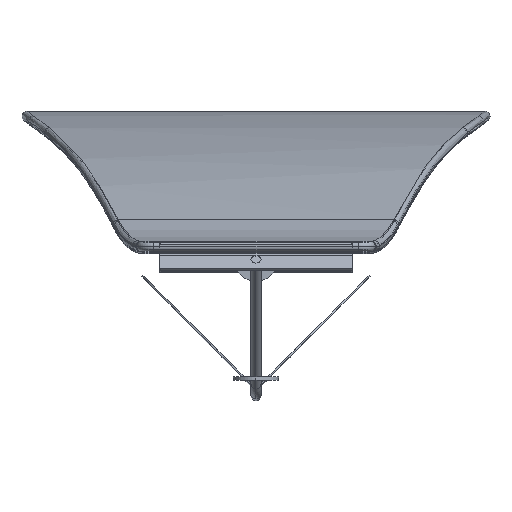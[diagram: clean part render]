
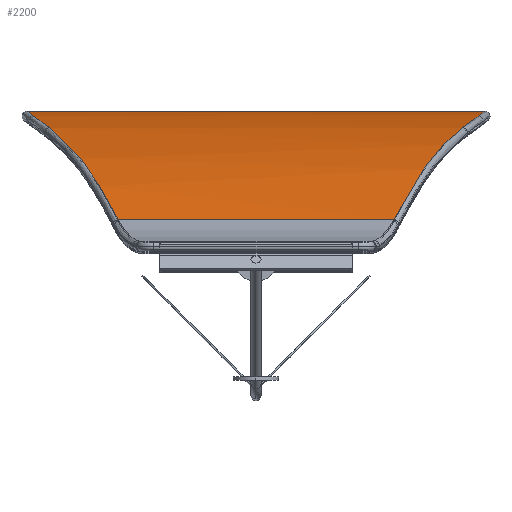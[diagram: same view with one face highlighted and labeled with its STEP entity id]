
A CAD part, top view. The second image highlights one B-rep face of the part: STEP entity #2200.
In plain terms, the highlighted cylindrical face has radius 593.531 mm (diameter 1187.06 mm), a partial arc.
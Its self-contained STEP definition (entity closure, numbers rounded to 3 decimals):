
#83 = B_SPLINE_CURVE_WITH_KNOTS ( 'NONE', 3,
 ( #5920, #5198, #4468, #8738, #5137, #7955, #8651, #4553, #345, #5226, #380, #5863, #1681, #8036, #5170, #2429 ),
 .UNSPECIFIED., .F., .F.,
 ( 4, 2, 2, 2, 2, 2, 2, 4 ),
 ( 0., 0.055, 0.109, 0.116, 0.123, 0.136, 0.164, 0.218 ),
 .UNSPECIFIED. ) ;
#106 = LINE ( 'NONE', #2585, #2563 ) ;
#153 = CARTESIAN_POINT ( 'NONE',  ( 82.177, 18.521, 270.004 ) ) ;
#164 = CARTESIAN_POINT ( 'NONE',  ( 135.955, 83.071, -22.762 ) ) ;
#271 = CARTESIAN_POINT ( 'NONE',  ( -95.086, 44.621, 218.909 ) ) ;
#273 =( BOUNDED_CURVE ( )  B_SPLINE_CURVE ( 3, ( #2983, #7109, #271, #7839 ),
 .UNSPECIFIED., .F., .T. ) 
 B_SPLINE_CURVE_WITH_KNOTS ( ( 4, 4 ),
 ( 1.754, 2.043 ),
 .UNSPECIFIED. ) 
 CURVE ( )  GEOMETRIC_REPRESENTATION_ITEM ( )  RATIONAL_B_SPLINE_CURVE ( ( 1., 0.993, 0.993, 1. ) ) 
 REPRESENTATION_ITEM ( '' )  );
#345 = CARTESIAN_POINT ( 'NONE',  ( -136.38, 83.388, 11.252 ) ) ;
#380 = CARTESIAN_POINT ( 'NONE',  ( -135.955, 83.071, 22.762 ) ) ;
#383 = CARTESIAN_POINT ( 'NONE',  ( -82.177, 18.521, -270.004 ) ) ;
#446 = CARTESIAN_POINT ( 'NONE',  ( 95.086, 44.621, 218.909 ) ) ;
#1085 = VERTEX_POINT ( 'NONE', #2754 ) ;
#1493 = CARTESIAN_POINT ( 'NONE',  ( 136.38, 83.388, -11.252 ) ) ;
#1650 = CARTESIAN_POINT ( 'NONE',  ( -95.086, 44.621, -218.909 ) ) ;
#1681 = CARTESIAN_POINT ( 'NONE',  ( -134.252, 81.806, 45.599 ) ) ;
#1730 =( BOUNDED_CURVE ( )  B_SPLINE_CURVE ( 3, ( #383, #1650, #7195, #7895 ),
 .UNSPECIFIED., .F., .T. ) 
 B_SPLINE_CURVE_WITH_KNOTS ( ( 4, 4 ),
 ( 4.24, 4.529 ),
 .UNSPECIFIED. ) 
 CURVE ( )  GEOMETRIC_REPRESENTATION_ITEM ( )  RATIONAL_B_SPLINE_CURVE ( ( 1., 0.993, 0.993, 1. ) ) 
 REPRESENTATION_ITEM ( '' )  );
#1776 = CARTESIAN_POINT ( 'NONE',  ( 123.065, 73.549, 108.176 ) ) ;
#1792 = CARTESIAN_POINT ( 'NONE',  ( 123.065, 73.549, -108.176 ) ) ;
#2009 = CARTESIAN_POINT ( 'NONE',  ( 123.065, 73.549, -108.176 ) ) ;
#2200 = ADVANCED_FACE ( 'NONE', ( #6646 ), #2950, .T. ) ;
#2429 = CARTESIAN_POINT ( 'NONE',  ( -123.065, 73.549, 108.176 ) ) ;
#2487 = CARTESIAN_POINT ( 'NONE',  ( 108.811, 63.092, -164.59 ) ) ;
#2510 = VERTEX_POINT ( 'NONE', #3317 ) ;
#2563 = VECTOR ( 'NONE', #4013, 1000. ) ;
#2585 = CARTESIAN_POINT ( 'NONE',  ( 152.25, 18.521, 270.004 ) ) ;
#2586 = ORIENTED_EDGE ( 'NONE', *, *, #4908, .T. ) ;
#2754 = CARTESIAN_POINT ( 'NONE',  ( -123.065, 73.549, -108.176 ) ) ;
#2950 = CYLINDRICAL_SURFACE ( 'NONE', #8592, 593.531 ) ;
#2983 = CARTESIAN_POINT ( 'NONE',  ( -123.065, 73.549, 108.176 ) ) ;
#3052 =( BOUNDED_CURVE ( )  B_SPLINE_CURVE ( 3, ( #1792, #2487, #3175, #8032 ),
 .UNSPECIFIED., .F., .T. ) 
 B_SPLINE_CURVE_WITH_KNOTS ( ( 4, 4 ),
 ( 4.896, 5.185 ),
 .UNSPECIFIED. ) 
 CURVE ( )  GEOMETRIC_REPRESENTATION_ITEM ( )  RATIONAL_B_SPLINE_CURVE ( ( 1., 0.993, 0.993, 1. ) ) 
 REPRESENTATION_ITEM ( '' )  );
#3065 = B_SPLINE_CURVE_WITH_KNOTS ( 'NONE', 3,
 ( #6181, #3332, #7499, #6835, #7529, #5445, #8202, #8929, #1493, #4747, #164, #5412, #5622, #6337, #3397, #2009 ),
 .UNSPECIFIED., .F., .F.,
 ( 4, 2, 2, 2, 2, 2, 2, 4 ),
 ( 0., 0.055, 0.109, 0.116, 0.123, 0.136, 0.164, 0.218 ),
 .UNSPECIFIED. ) ;
#3175 = CARTESIAN_POINT ( 'NONE',  ( 95.086, 44.621, -218.909 ) ) ;
#3274 = CARTESIAN_POINT ( 'NONE',  ( 123.065, 73.549, -108.176 ) ) ;
#3317 = CARTESIAN_POINT ( 'NONE',  ( 82.177, 18.521, -270.004 ) ) ;
#3332 = CARTESIAN_POINT ( 'NONE',  ( 127.514, 76.813, 90.566 ) ) ;
#3397 = CARTESIAN_POINT ( 'NONE',  ( 127.515, 76.814, -90.562 ) ) ;
#3458 =( BOUNDED_CURVE ( )  B_SPLINE_CURVE ( 3, ( #8634, #446, #5206, #1776 ),
 .UNSPECIFIED., .F., .T. ) 
 B_SPLINE_CURVE_WITH_KNOTS ( ( 4, 4 ),
 ( 1.099, 1.388 ),
 .UNSPECIFIED. ) 
 CURVE ( )  GEOMETRIC_REPRESENTATION_ITEM ( )  RATIONAL_B_SPLINE_CURVE ( ( 1., 0.993, 0.993, 1. ) ) 
 REPRESENTATION_ITEM ( '' )  );
#3630 = EDGE_CURVE ( 'NONE', #8897, #5173, #3065, .T. ) ;
#3646 = CARTESIAN_POINT ( 'NONE',  ( -82.177, 18.521, 270.004 ) ) ;
#3670 = EDGE_LOOP ( 'NONE', ( #6600, #2586, #7104, #5883, #4979, #6385, #5294, #5648 ) ) ;
#3933 = EDGE_CURVE ( 'NONE', #5173, #2510, #3052, .T. ) ;
#4013 = DIRECTION ( 'NONE',  ( -1., 0., 0. ) ) ;
#4151 = CARTESIAN_POINT ( 'NONE',  ( 152.25, -510.041, 0. ) ) ;
#4216 = DIRECTION ( 'NONE',  ( -1., 0., 0. ) ) ;
#4468 = CARTESIAN_POINT ( 'NONE',  ( -130.859, 79.289, -72.768 ) ) ;
#4553 = CARTESIAN_POINT ( 'NONE',  ( -136.433, 83.427, 8.945 ) ) ;
#4747 = CARTESIAN_POINT ( 'NONE',  ( 136.168, 83.23, -18.167 ) ) ;
#4767 = VERTEX_POINT ( 'NONE', #3646 ) ;
#4769 = CARTESIAN_POINT ( 'NONE',  ( -82.177, 18.521, -270.004 ) ) ;
#4908 = EDGE_CURVE ( 'NONE', #7146, #1085, #1730, .T. ) ;
#4979 = ORIENTED_EDGE ( 'NONE', *, *, #7958, .F. ) ;
#5137 = CARTESIAN_POINT ( 'NONE',  ( -136.507, 83.482, -18.625 ) ) ;
#5170 = CARTESIAN_POINT ( 'NONE',  ( -127.515, 76.814, 90.562 ) ) ;
#5173 = VERTEX_POINT ( 'NONE', #3274 ) ;
#5198 = CARTESIAN_POINT ( 'NONE',  ( -127.514, 76.813, -90.566 ) ) ;
#5206 = CARTESIAN_POINT ( 'NONE',  ( 108.811, 63.092, 164.59 ) ) ;
#5226 = CARTESIAN_POINT ( 'NONE',  ( -136.168, 83.23, 18.167 ) ) ;
#5294 = ORIENTED_EDGE ( 'NONE', *, *, #3630, .T. ) ;
#5412 = CARTESIAN_POINT ( 'NONE',  ( 135.103, 82.438, -36.5 ) ) ;
#5445 = CARTESIAN_POINT ( 'NONE',  ( 136.519, 83.491, -2.041 ) ) ;
#5586 = LINE ( 'NONE', #8197, #7990 ) ;
#5609 = EDGE_CURVE ( 'NONE', #1085, #7947, #83, .T. ) ;
#5615 = DIRECTION ( 'NONE',  ( 0., 0., 1. ) ) ;
#5622 = CARTESIAN_POINT ( 'NONE',  ( 134.252, 81.806, -45.599 ) ) ;
#5648 = ORIENTED_EDGE ( 'NONE', *, *, #3933, .T. ) ;
#5863 = CARTESIAN_POINT ( 'NONE',  ( -135.103, 82.438, 36.5 ) ) ;
#5883 = ORIENTED_EDGE ( 'NONE', *, *, #7306, .T. ) ;
#5902 = CARTESIAN_POINT ( 'NONE',  ( 123.065, 73.549, 108.176 ) ) ;
#5920 = CARTESIAN_POINT ( 'NONE',  ( -123.065, 73.549, -108.176 ) ) ;
#6181 = CARTESIAN_POINT ( 'NONE',  ( 123.065, 73.549, 108.176 ) ) ;
#6337 = CARTESIAN_POINT ( 'NONE',  ( 130.871, 79.298, -72.718 ) ) ;
#6385 = ORIENTED_EDGE ( 'NONE', *, *, #7385, .T. ) ;
#6600 = ORIENTED_EDGE ( 'NONE', *, *, #7074, .T. ) ;
#6646 = FACE_OUTER_BOUND ( 'NONE', #3670, .T. ) ;
#6835 = CARTESIAN_POINT ( 'NONE',  ( 135.355, 82.624, 36.798 ) ) ;
#6956 = CARTESIAN_POINT ( 'NONE',  ( -123.065, 73.549, 108.176 ) ) ;
#7074 = EDGE_CURVE ( 'NONE', #2510, #7146, #5586, .T. ) ;
#7104 = ORIENTED_EDGE ( 'NONE', *, *, #5609, .T. ) ;
#7109 = CARTESIAN_POINT ( 'NONE',  ( -108.811, 63.092, 164.59 ) ) ;
#7146 = VERTEX_POINT ( 'NONE', #4769 ) ;
#7195 = CARTESIAN_POINT ( 'NONE',  ( -108.811, 63.092, -164.59 ) ) ;
#7205 = VERTEX_POINT ( 'NONE', #153 ) ;
#7306 = EDGE_CURVE ( 'NONE', #7947, #4767, #273, .T. ) ;
#7385 = EDGE_CURVE ( 'NONE', #7205, #8897, #3458, .T. ) ;
#7499 = CARTESIAN_POINT ( 'NONE',  ( 130.859, 79.289, 72.768 ) ) ;
#7529 = CARTESIAN_POINT ( 'NONE',  ( 136.507, 83.482, 18.625 ) ) ;
#7666 = DIRECTION ( 'NONE',  ( -1., 0., 0. ) ) ;
#7839 = CARTESIAN_POINT ( 'NONE',  ( -82.177, 18.521, 270.004 ) ) ;
#7895 = CARTESIAN_POINT ( 'NONE',  ( -123.065, 73.549, -108.176 ) ) ;
#7947 = VERTEX_POINT ( 'NONE', #6956 ) ;
#7955 = CARTESIAN_POINT ( 'NONE',  ( -136.519, 83.491, 2.041 ) ) ;
#7958 = EDGE_CURVE ( 'NONE', #7205, #4767, #106, .T. ) ;
#7990 = VECTOR ( 'NONE', #7666, 1000. ) ;
#8032 = CARTESIAN_POINT ( 'NONE',  ( 82.177, 18.521, -270.004 ) ) ;
#8036 = CARTESIAN_POINT ( 'NONE',  ( -130.871, 79.298, 72.718 ) ) ;
#8197 = CARTESIAN_POINT ( 'NONE',  ( 152.25, 18.521, -270.004 ) ) ;
#8202 = CARTESIAN_POINT ( 'NONE',  ( 136.502, 83.479, -4.34 ) ) ;
#8592 = AXIS2_PLACEMENT_3D ( 'NONE', #4151, #4216, #5615 ) ;
#8634 = CARTESIAN_POINT ( 'NONE',  ( 82.177, 18.521, 270.004 ) ) ;
#8651 = CARTESIAN_POINT ( 'NONE',  ( -136.502, 83.479, 4.34 ) ) ;
#8738 = CARTESIAN_POINT ( 'NONE',  ( -135.355, 82.624, -36.798 ) ) ;
#8897 = VERTEX_POINT ( 'NONE', #5902 ) ;
#8929 = CARTESIAN_POINT ( 'NONE',  ( 136.433, 83.427, -8.945 ) ) ;
